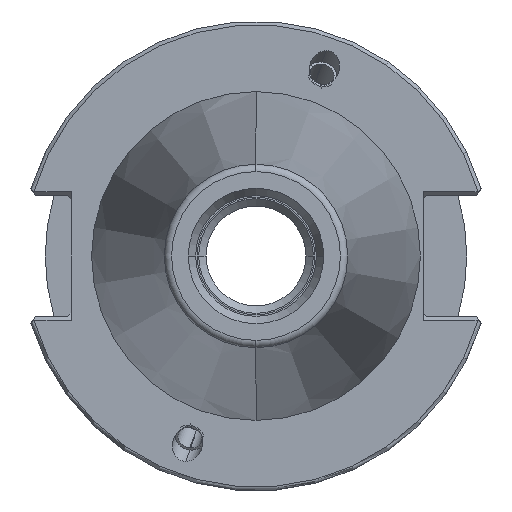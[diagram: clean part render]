
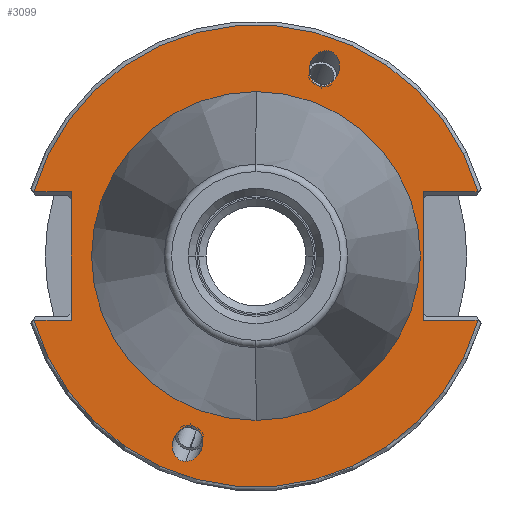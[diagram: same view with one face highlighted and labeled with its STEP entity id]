
A CAD part, left-side view. The second image highlights one B-rep face of the part: STEP entity #3099.
In plain terms, the highlighted planar face has unit normal (-1, 0, 0).
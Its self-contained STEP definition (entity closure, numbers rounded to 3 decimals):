
#116=CARTESIAN_POINT('',(3.175,0.,0.));
#117=DIRECTION('',(1.,0.,0.));
#118=DIRECTION('',(0.,1.,0.));
#119=AXIS2_PLACEMENT_3D('',#116,#117,#118);
#121=CARTESIAN_POINT('',(3.175,0.,0.));
#122=DIRECTION('',(1.,0.,0.));
#123=DIRECTION('',(0.,-1.,0.));
#124=AXIS2_PLACEMENT_3D('',#121,#122,#123);
#126=CARTESIAN_POINT('',(3.175,9.498,-27.766));
#127=CARTESIAN_POINT('',(3.175,9.257,-27.766));
#128=CARTESIAN_POINT('',(3.175,8.727,-27.663));
#129=CARTESIAN_POINT('',(3.175,7.941,-27.117));
#130=CARTESIAN_POINT('',(3.175,7.379,-26.257));
#131=CARTESIAN_POINT('',(3.175,7.151,-25.372));
#132=CARTESIAN_POINT('',(3.175,7.185,-24.486));
#133=CARTESIAN_POINT('',(3.175,7.557,-23.627));
#134=CARTESIAN_POINT('',(3.175,8.223,-23.08));
#135=CARTESIAN_POINT('',(3.175,8.731,-22.978));
#136=CARTESIAN_POINT('',(3.175,8.971,-22.978));
#138=CARTESIAN_POINT('',(3.175,8.971,-22.978));
#139=CARTESIAN_POINT('',(3.175,9.212,-22.978));
#140=CARTESIAN_POINT('',(3.175,9.742,-23.08));
#141=CARTESIAN_POINT('',(3.175,10.528,-23.627));
#142=CARTESIAN_POINT('',(3.175,11.09,-24.486));
#143=CARTESIAN_POINT('',(3.175,11.318,-25.372));
#144=CARTESIAN_POINT('',(3.175,11.284,-26.257));
#145=CARTESIAN_POINT('',(3.175,10.912,-27.117));
#146=CARTESIAN_POINT('',(3.175,10.246,-27.663));
#147=CARTESIAN_POINT('',(3.175,9.738,-27.766));
#148=CARTESIAN_POINT('',(3.175,9.498,-27.766));
#150=CARTESIAN_POINT('',(3.175,-9.498,27.766));
#151=CARTESIAN_POINT('',(3.175,-9.257,27.766));
#152=CARTESIAN_POINT('',(3.175,-8.727,27.663));
#153=CARTESIAN_POINT('',(3.175,-7.941,27.117));
#154=CARTESIAN_POINT('',(3.175,-7.379,26.257));
#155=CARTESIAN_POINT('',(3.175,-7.151,25.372));
#156=CARTESIAN_POINT('',(3.175,-7.185,24.486));
#157=CARTESIAN_POINT('',(3.175,-7.557,23.627));
#158=CARTESIAN_POINT('',(3.175,-8.223,23.08));
#159=CARTESIAN_POINT('',(3.175,-8.731,22.978));
#160=CARTESIAN_POINT('',(3.175,-8.971,22.978));
#162=CARTESIAN_POINT('',(3.175,-8.971,22.978));
#163=CARTESIAN_POINT('',(3.175,-9.212,22.978));
#164=CARTESIAN_POINT('',(3.175,-9.742,23.08));
#165=CARTESIAN_POINT('',(3.175,-10.528,23.627));
#166=CARTESIAN_POINT('',(3.175,-11.09,24.486));
#167=CARTESIAN_POINT('',(3.175,-11.318,25.372));
#168=CARTESIAN_POINT('',(3.175,-11.284,26.257));
#169=CARTESIAN_POINT('',(3.175,-10.912,27.117));
#170=CARTESIAN_POINT('',(3.175,-10.246,27.663));
#171=CARTESIAN_POINT('',(3.175,-9.738,27.766));
#172=CARTESIAN_POINT('',(3.175,-9.498,27.766));
#174=DIRECTION('',(0.,-1.,0.));
#175=VECTOR('',#174,5.017);
#176=CARTESIAN_POINT('',(3.175,30.017,8.69));
#177=LINE('',#176,#175);
#178=DIRECTION('',(0.,-1.,0.));
#179=VECTOR('',#178,7.417);
#180=CARTESIAN_POINT('',(3.175,-22.6,8.69));
#181=LINE('',#180,#179);
#182=DIRECTION('',(0.,1.,0.));
#183=VECTOR('',#182,7.417);
#184=CARTESIAN_POINT('',(3.175,-30.017,-8.69));
#185=LINE('',#184,#183);
#186=DIRECTION('',(0.,1.,0.));
#187=VECTOR('',#186,5.017);
#188=CARTESIAN_POINT('',(3.175,25.,-8.69));
#189=LINE('',#188,#187);
#593=DIRECTION('',(0.,0.,-1.));
#594=VECTOR('',#593,17.38);
#595=CARTESIAN_POINT('',(3.175,25.,8.69));
#596=LINE('',#595,#594);
#1804=CARTESIAN_POINT('',(3.175,0.,0.));
#1805=DIRECTION('',(-1.,0.,0.));
#1806=DIRECTION('',(0.,0.961,-0.278));
#1807=AXIS2_PLACEMENT_3D('',#1804,#1805,#1806);
#1876=CARTESIAN_POINT('',(3.175,0.,0.));
#1877=DIRECTION('',(-1.,0.,0.));
#1878=DIRECTION('',(0.,-0.961,0.278));
#1879=AXIS2_PLACEMENT_3D('',#1876,#1877,#1878);
#1958=DIRECTION('',(0.,0.,1.));
#1959=VECTOR('',#1958,17.38);
#1960=CARTESIAN_POINT('',(3.175,-22.6,-8.69));
#1961=LINE('',#1960,#1959);
#2516=CARTESIAN_POINT('',(3.175,22.2,0.));
#2517=CARTESIAN_POINT('',(3.175,-22.2,0.));
#2518=VERTEX_POINT('',#2516);
#2519=VERTEX_POINT('',#2517);
#2582=VERTEX_POINT('',#126);
#2583=VERTEX_POINT('',#136);
#2616=CARTESIAN_POINT('',(3.175,30.017,8.69));
#2617=CARTESIAN_POINT('',(3.175,25.,8.69));
#2618=VERTEX_POINT('',#2616);
#2619=VERTEX_POINT('',#2617);
#2624=CARTESIAN_POINT('',(3.175,25.,-8.69));
#2625=CARTESIAN_POINT('',(3.175,30.017,-8.69));
#2626=VERTEX_POINT('',#2624);
#2627=VERTEX_POINT('',#2625);
#2632=CARTESIAN_POINT('',(3.175,-22.6,8.69));
#2633=CARTESIAN_POINT('',(3.175,-30.017,8.69));
#2634=VERTEX_POINT('',#2632);
#2635=VERTEX_POINT('',#2633);
#2640=CARTESIAN_POINT('',(3.175,-30.017,
-8.69));
#2641=CARTESIAN_POINT('',(3.175,-22.6,-8.69));
#2642=VERTEX_POINT('',#2640);
#2643=VERTEX_POINT('',#2641);
#2678=CARTESIAN_POINT('',(3.175,-9.498,27.766));
#2679=VERTEX_POINT('',#2678);
#2680=CARTESIAN_POINT('',(3.175,-8.971,22.978));
#2681=VERTEX_POINT('',#2680);
#3060=CARTESIAN_POINT('',(3.175,0.,0.));
#3061=DIRECTION('',(1.,0.,0.));
#3062=DIRECTION('',(0.,0.,1.));
#3063=AXIS2_PLACEMENT_3D('',#3060,#3061,#3062);
#3064=PLANE('',#3063);
#3066=ORIENTED_EDGE('',*,*,#3065,.F.);
#3068=ORIENTED_EDGE('',*,*,#3067,.F.);
#3070=ORIENTED_EDGE('',*,*,#3069,.F.);
#3072=ORIENTED_EDGE('',*,*,#3071,.F.);
#3074=ORIENTED_EDGE('',*,*,#3073,.F.);
#3076=ORIENTED_EDGE('',*,*,#3075,.F.);
#3078=ORIENTED_EDGE('',*,*,#3077,.F.);
#3080=ORIENTED_EDGE('',*,*,#3079,.F.);
#3081=EDGE_LOOP('',(#3066,#3068,#3070,#3072,#3074,#3076,#3078,#3080));
#3082=FACE_OUTER_BOUND('',#3081,.F.);
#3084=ORIENTED_EDGE('',*,*,#3083,.T.);
#3086=ORIENTED_EDGE('',*,*,#3085,.T.);
#3087=EDGE_LOOP('',(#3084,#3086));
#3088=FACE_BOUND('',#3087,.F.);
#3090=ORIENTED_EDGE('',*,*,#3089,.T.);
#3092=ORIENTED_EDGE('',*,*,#3091,.T.);
#3093=EDGE_LOOP('',(#3090,#3092));
#3094=FACE_BOUND('',#3093,.F.);
#3095=ORIENTED_EDGE('',*,*,#3013,.F.);
#3096=ORIENTED_EDGE('',*,*,#3028,.F.);
#3097=EDGE_LOOP('',(#3095,#3096));
#3098=FACE_BOUND('',#3097,.F.);
#3099=ADVANCED_FACE('',(#3082,#3088,#3094,#3098),#3064,.F.);
#120=CIRCLE('',#119,22.2);
#125=CIRCLE('',#124,22.2);
#137=B_SPLINE_CURVE_WITH_KNOTS('',3,(#126,#127,#128,#129,#130,#131,#132,#133,
#134,#135,#136),.UNSPECIFIED.,.F.,.F.,(4,1,1,1,1,1,1,1,4),(0.,0.125,0.25,
0.375,0.5,0.625,0.75,0.875,1.),.UNSPECIFIED.);
#149=B_SPLINE_CURVE_WITH_KNOTS('',3,(#138,#139,#140,#141,#142,#143,#144,#145,
#146,#147,#148),.UNSPECIFIED.,.F.,.F.,(4,1,1,1,1,1,1,1,4),(0.,0.125,0.25,
0.375,0.5,0.625,0.75,0.875,1.),.UNSPECIFIED.);
#161=B_SPLINE_CURVE_WITH_KNOTS('',3,(#150,#151,#152,#153,#154,#155,#156,#157,
#158,#159,#160),.UNSPECIFIED.,.F.,.F.,(4,1,1,1,1,1,1,1,4),(0.,0.125,0.25,
0.375,0.5,0.625,0.75,0.875,1.),.UNSPECIFIED.);
#173=B_SPLINE_CURVE_WITH_KNOTS('',3,(#162,#163,#164,#165,#166,#167,#168,#169,
#170,#171,#172),.UNSPECIFIED.,.F.,.F.,(4,1,1,1,1,1,1,1,4),(0.,0.125,0.25,
0.375,0.5,0.625,0.75,0.875,1.),.UNSPECIFIED.);
#1808=CIRCLE('',#1807,31.25);
#1880=CIRCLE('',#1879,31.25);
#3013=EDGE_CURVE('',#2518,#2519,#120,.T.);
#3028=EDGE_CURVE('',#2519,#2518,#125,.T.);
#3065=EDGE_CURVE('',#2618,#2619,#177,.T.);
#3067=EDGE_CURVE('',#2635,#2618,#1880,.T.);
#3069=EDGE_CURVE('',#2634,#2635,#181,.T.);
#3071=EDGE_CURVE('',#2643,#2634,#1961,.T.);
#3073=EDGE_CURVE('',#2642,#2643,#185,.T.);
#3075=EDGE_CURVE('',#2627,#2642,#1808,.T.);
#3077=EDGE_CURVE('',#2626,#2627,#189,.T.);
#3079=EDGE_CURVE('',#2619,#2626,#596,.T.);
#3083=EDGE_CURVE('',#2582,#2583,#137,.T.);
#3085=EDGE_CURVE('',#2583,#2582,#149,.T.);
#3089=EDGE_CURVE('',#2679,#2681,#161,.T.);
#3091=EDGE_CURVE('',#2681,#2679,#173,.T.);
